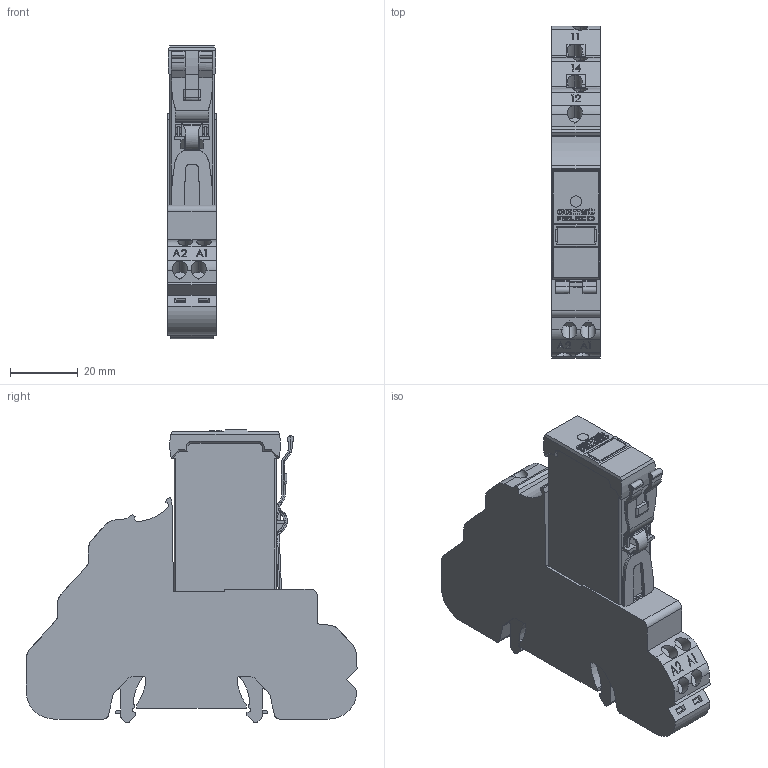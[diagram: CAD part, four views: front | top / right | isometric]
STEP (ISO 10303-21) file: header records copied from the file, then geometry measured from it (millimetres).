
FILE_DESCRIPTION (( 'STEP AP214' ), '1' );
FILE_NAME ('CSS_plus_S10-PI.STEP', '2024-04-04T13:24:08', ( '' ), ( '' ), 'SwSTEP 2.0', 'SolidWorks 2022', '' );
FILE_SCHEMA (( 'AUTOMOTIVE_DESIGN' ));
Length unit declared in the file: millimetre
Products named in the file (1): CSS_plus_S10-PI
Bounding box: 14.4 x 97.75 x 86.41 mm (x, y, z)
Volume: 72075.3 mm3; surface area: 18695.1 mm2
Topology: 1 solids, 1 shells, 736 faces, 2048 edges, 1346 vertices
Faces by surface type: plane 481, bspline 130, cylinder 113, cone 12
Entity records: 33051 total; most frequent: CARTESIAN_POINT 8415, ORIENTED_EDGE 4096, DIRECTION 2970, EDGE_CURVE 2048, VECTOR 1448, LINE 1448, VERTEX_POINT 1346, EDGE_LOOP 776
